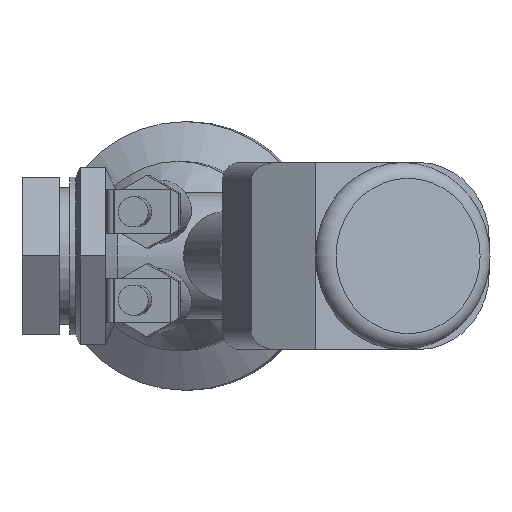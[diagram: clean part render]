
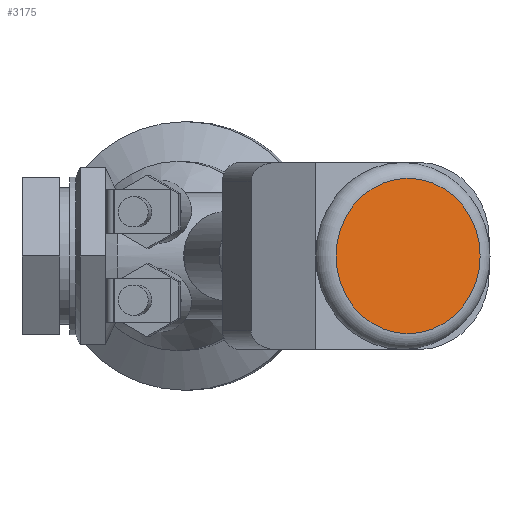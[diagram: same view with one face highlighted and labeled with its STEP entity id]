
A CAD part, front view. The second image highlights one B-rep face of the part: STEP entity #3175.
In plain terms, the highlighted planar face has unit normal (0.375, -0.927, 0).
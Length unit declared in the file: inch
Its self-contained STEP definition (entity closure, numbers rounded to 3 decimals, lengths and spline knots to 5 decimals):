
#149=CIRCLE('',#3513,0.61577);
#150=CIRCLE('',#3514,0.61577);
#340=FACE_OUTER_BOUND('',#525,.T.);
#525=EDGE_LOOP('',(#2167,#2168));
#1280=VERTEX_POINT('',#5047);
#1281=VERTEX_POINT('',#5048);
#1614=EDGE_CURVE('',#1280,#1281,#149,.T.);
#1615=EDGE_CURVE('',#1281,#1280,#150,.T.);
#2167=ORIENTED_EDGE('',*,*,#1614,.T.);
#2168=ORIENTED_EDGE('',*,*,#1615,.T.);
#2852=PLANE('',#3516);
#3175=ADVANCED_FACE('',(#340),#2852,.T.);
#3513=AXIS2_PLACEMENT_3D('',#5049,#4053,#4054);
#3514=AXIS2_PLACEMENT_3D('',#5050,#4055,#4056);
#3516=AXIS2_PLACEMENT_3D('',#5052,#4059,#4060);
#4053=DIRECTION('center_axis',(0.375,-0.927,0.));
#4054=DIRECTION('ref_axis',(0.927,0.375,0.));
#4055=DIRECTION('center_axis',(0.375,-0.927,0.));
#4056=DIRECTION('ref_axis',(0.927,0.375,0.));
#4059=DIRECTION('center_axis',(0.375,-0.927,0.));
#4060=DIRECTION('ref_axis',(0.,0.,-1.));
#5047=CARTESIAN_POINT('',(1.03314,-4.2009,0.));
#5048=CARTESIAN_POINT('',(1.60408,-3.97023,0.61577));
#5049=CARTESIAN_POINT('Origin',(1.60408,-3.97023,0.));
#5050=CARTESIAN_POINT('Origin',(1.60408,-3.97023,0.));
#5052=CARTESIAN_POINT('Origin',(1.60408,-3.97023,0.));
